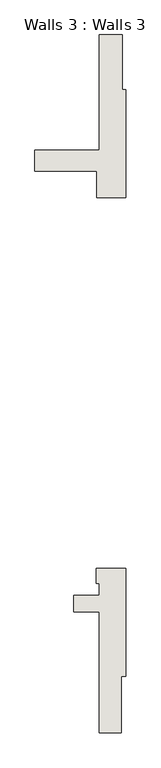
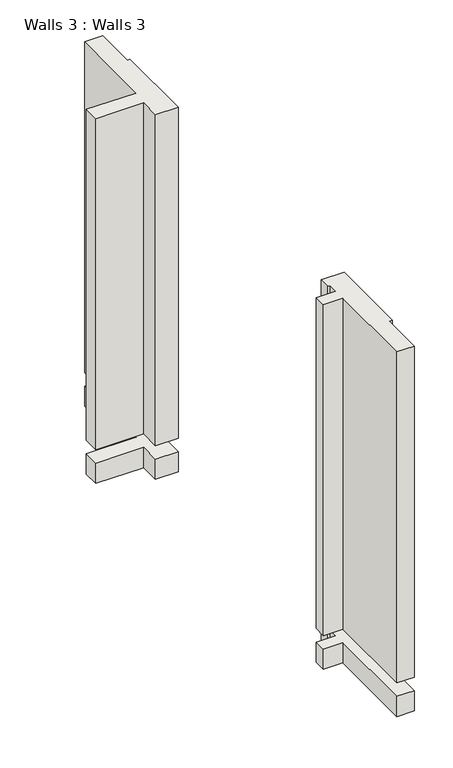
"""IFC4 building model written with IfcOpenShell, lengths in millimetres: wall geometry, Walls 3 : Walls 3."""

from ifc_helpers import new_model, si_unit, frame, origin, origin_with_axes, place, context, project, spatial, polyline, outline, extrude, source, transform, mapped, element, save


def walls_3_walls_3_43b07a90(model_context):
    return source(origin(), model_context, "Body", "SweptSolid", [
        extrude(outline(polyline([(131733.8729089, 49530.8005963), (131733.8729089, 48015.8005963), (131133.8729089, 48015.8005963), (131133.8729089, 51265.8005963), (130453.8729089, 51265.8005963), (130453.8729089, 51705.8005963), (131133.8729089, 51705.8005963), (131133.8729089, 52036.0705963), (131053.8705597, 52036.0705963), (131053.8705597, 52436.0705963), (131853.8729089, 52436.0705963), (131853.8729089, 49530.8005963), (131733.8729089, 49530.8005963)])), origin_with_axes(), (0.0, 0.0, 1.0), 12160.0),
        extrude(outline(polyline([(131733.8729089, 48015.8005963), (131133.8729089, 48015.8005963), (131133.8729089, 51265.8005963), (130453.8729089, 51265.8005963), (130453.8729089, 51705.8005963), (131133.8729089, 51705.8005963), (131133.8729089, 52036.0705963), (131053.8705597, 52036.0705963), (131053.8705597, 52436.0705963), (131853.8729089, 52436.0705963), (131853.8729089, 49530.8005963), (131733.8729089, 49530.8005963), (131733.8729089, 48015.8005963)])), frame((0.0, 0.0, -1240.0), z_axis=(0.0, 0.0, 1.0), x_axis=(1.0, 0.0, 0.0)), (0.0, 0.0, 1.0), 740.0),
        extrude(outline(polyline([(131853.8729089, 62436.0705963), (131063.8729089, 62436.0705963), (131063.8729089, 63150.8005963), (129403.8729089, 63150.8005963), (129403.8729089, 63710.8005963), (131133.8729089, 63710.8005963), (131133.8729089, 66815.8005963), (131753.8729089, 66815.8005963), (131753.8729089, 65335.8005963), (131853.8729089, 65335.8005963), (131853.8729089, 62436.0705963)])), origin_with_axes(), (0.0, 0.0, 1.0), 12160.0000001),
        extrude(outline(polyline([(131063.8729089, 62436.0705963), (131063.8729089, 63150.8005963), (129403.8729089, 63150.8005963), (129403.8729089, 63710.8005963), (131133.8729089, 63710.8005963), (131133.8729089, 66815.8005963), (131753.8729089, 66815.8005963), (131753.8729089, 65335.8005963), (131853.8729089, 65335.8005963), (131853.8729089, 62436.0705963), (131063.8729089, 62436.0705963)])), frame((0.0, 0.0, -1239.9999999), z_axis=(0.0, 0.0, 1.0), x_axis=(1.0, 0.0, 0.0)), (0.0, 0.0, 1.0), 739.9999999),
    ])


if __name__ == "__main__":
    model = new_model("IFC4")
    model_context = context("Model", 3, world=origin())
    ifc_project = project(units=[si_unit("LENGTHUNIT", "METRE", prefix="MILLI")], contexts=[model_context])
    site = spatial("IfcSite", under=ifc_project)
    building = spatial("IfcBuilding", under=site)
    placement = place(None, origin())
    walls_3_walls_3_shape = walls_3_walls_3_43b07a90(model_context)
    element("IfcWall", 1, ObjectType="Walls 3 : Walls 3", at=placement, inside=building, context=model_context, shape_type="MappedRepresentation", body=[
        mapped(walls_3_walls_3_shape, transform((0.0, 0.0, 0.0), x_axis=(1.0, 0.0, 0.0), y_axis=(0.0, 1.0, 0.0), z_axis=(0.0, 0.0, 1.0))),
    ])
    save(model, "model.ifc")
